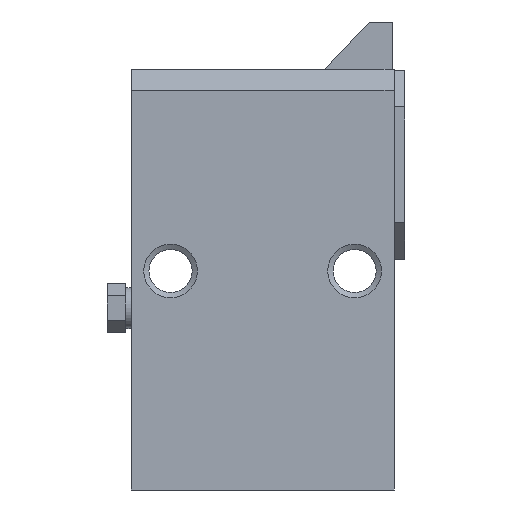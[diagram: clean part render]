
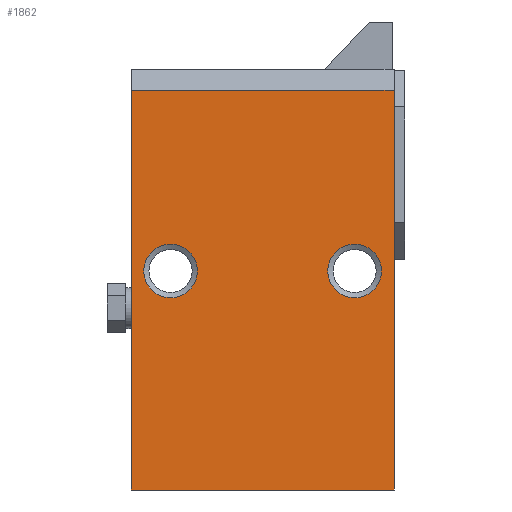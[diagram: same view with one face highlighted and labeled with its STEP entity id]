
A CAD part, left-side view. The second image highlights one B-rep face of the part: STEP entity #1862.
In plain terms, the highlighted planar face has unit normal (-1, 0, 0).
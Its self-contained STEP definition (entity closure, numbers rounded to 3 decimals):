
#25=LINE('',#2699,#191);
#39=LINE('',#2740,#205);
#73=LINE('',#2881,#239);
#85=LINE('',#2900,#251);
#191=VECTOR('',#2175,76.);
#205=VECTOR('',#2203,76.);
#239=VECTOR('',#2341,50.);
#251=VECTOR('',#2359,50.);
#370=PLANE('',#2020);
#457=FACE_BOUND('',#655,.T.);
#458=FACE_BOUND('',#656,.T.);
#512=FACE_OUTER_BOUND('',#654,.T.);
#654=EDGE_LOOP('',(#1366,#1367,#1368,#1369));
#655=EDGE_LOOP('',(#1370));
#656=EDGE_LOOP('',(#1371));
#767=CIRCLE('',#1992,5.1);
#770=CIRCLE('',#1997,5.1);
#828=VERTEX_POINT('',#2696);
#829=VERTEX_POINT('',#2698);
#848=VERTEX_POINT('',#2738);
#849=VERTEX_POINT('',#2739);
#871=VERTEX_POINT('',#2796);
#874=VERTEX_POINT('',#2804);
#997=EDGE_CURVE('',#828,#829,#25,.T.);
#1017=EDGE_CURVE('',#848,#849,#39,.T.);
#1040=EDGE_CURVE('',#871,#871,#767,.T.);
#1043=EDGE_CURVE('',#874,#874,#770,.T.);
#1078=EDGE_CURVE('',#829,#848,#73,.T.);
#1090=EDGE_CURVE('',#828,#849,#85,.T.);
#1366=ORIENTED_EDGE('',*,*,#997,.F.);
#1367=ORIENTED_EDGE('',*,*,#1090,.T.);
#1368=ORIENTED_EDGE('',*,*,#1017,.F.);
#1369=ORIENTED_EDGE('',*,*,#1078,.F.);
#1370=ORIENTED_EDGE('',*,*,#1043,.F.);
#1371=ORIENTED_EDGE('',*,*,#1040,.F.);
#1862=ADVANCED_FACE('',(#512,#457,#458),#370,.T.);
#1992=AXIS2_PLACEMENT_3D('',#2797,#2264,#2265);
#1997=AXIS2_PLACEMENT_3D('',#2805,#2274,#2275);
#2020=AXIS2_PLACEMENT_3D('',#2899,#2357,#2358);
#2175=DIRECTION('',(0.,0.,-1.));
#2203=DIRECTION('',(0.,0.,1.));
#2264=DIRECTION('center_axis',(-1.,0.,0.));
#2265=DIRECTION('ref_axis',(0.,-1.,0.));
#2274=DIRECTION('center_axis',(-1.,0.,0.));
#2275=DIRECTION('ref_axis',(0.,-1.,0.));
#2341=DIRECTION('',(0.,1.,0.));
#2357=DIRECTION('center_axis',(-1.,0.,0.));
#2358=DIRECTION('ref_axis',(0.,-1.,0.));
#2359=DIRECTION('',(0.,1.,0.));
#2696=CARTESIAN_POINT('',(-20.,-25.,34.35));
#2698=CARTESIAN_POINT('',(-20.,-25.,-41.65));
#2699=CARTESIAN_POINT('',(-20.,-25.,34.35));
#2738=CARTESIAN_POINT('',(-20.,25.,-41.65));
#2739=CARTESIAN_POINT('',(-20.,25.,34.35));
#2740=CARTESIAN_POINT('',(-20.,25.,-41.65));
#2796=CARTESIAN_POINT('',(-20.,12.4,0.));
#2797=CARTESIAN_POINT('Origin',(-20.,17.5,0.));
#2804=CARTESIAN_POINT('',(-20.,-22.6,0.));
#2805=CARTESIAN_POINT('Origin',(-20.,-17.5,0.));
#2881=CARTESIAN_POINT('',(-20.,-25.,-41.65));
#2899=CARTESIAN_POINT('Origin',(-20.,-25.,38.35));
#2900=CARTESIAN_POINT('',(-20.,-25.,34.35));
